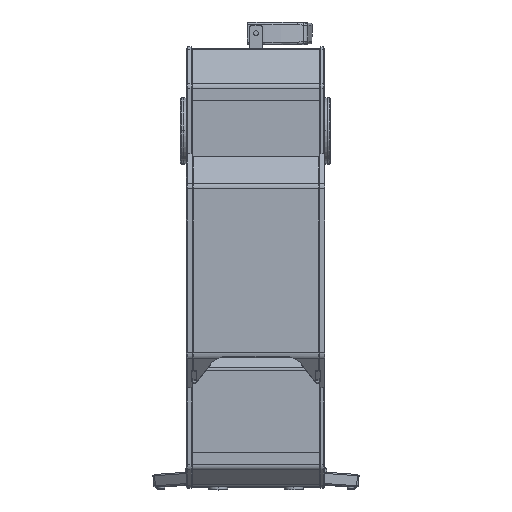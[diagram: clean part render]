
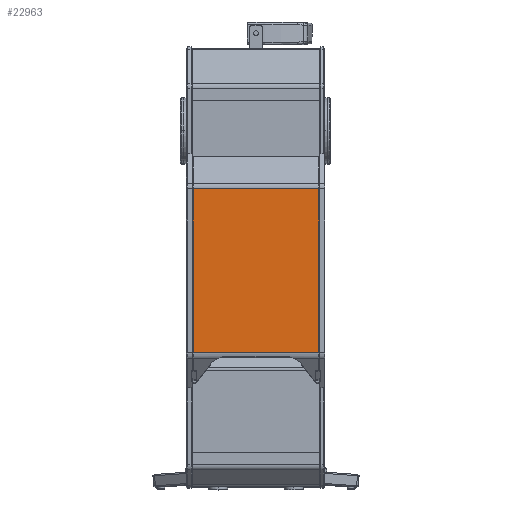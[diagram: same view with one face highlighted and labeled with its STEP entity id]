
A CAD part, top view. The second image highlights one B-rep face of the part: STEP entity #22963.
In plain terms, the highlighted planar face has unit normal (0, 0, 1).
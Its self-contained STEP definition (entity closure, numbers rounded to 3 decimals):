
#4959 = EDGE_CURVE ( 'NONE', #5474, #7762, #39995, .T. ) ;
#5474 = VERTEX_POINT ( 'NONE', #48054 ) ;
#7226 = ORIENTED_EDGE ( 'NONE', *, *, #43462, .T. ) ;
#7762 = VERTEX_POINT ( 'NONE', #8104 ) ;
#8104 = CARTESIAN_POINT ( 'NONE',  ( 3.7, 105.876, 270. ) ) ;
#10757 = LINE ( 'NONE', #34391, #44171 ) ;
#17013 = EDGE_CURVE ( 'NONE', #37741, #5474, #20360, .T. ) ;
#17059 = CARTESIAN_POINT ( 'NONE',  ( 103.3, 103.496, 270. ) ) ;
#17866 = DIRECTION ( 'NONE',  ( 1., 0., 0. ) ) ;
#18375 = VECTOR ( 'NONE', #47580, 1000. ) ;
#20360 = LINE ( 'NONE', #49711, #30577 ) ;
#22963 = ADVANCED_FACE ( 'NONE', ( #53963 ), #39602, .T. ) ;
#26522 = EDGE_LOOP ( 'NONE', ( #52740, #48116, #51717, #7226 ) ) ;
#28347 = VECTOR ( 'NONE', #40145, 1000. ) ;
#29928 = LINE ( 'NONE', #17059, #18375 ) ;
#30577 = VECTOR ( 'NONE', #36768, 1000. ) ;
#31209 = AXIS2_PLACEMENT_3D ( 'NONE', #43809, #43986, #17866 ) ;
#32099 = CARTESIAN_POINT ( 'NONE',  ( 103.3, 236.124, 270. ) ) ;
#34391 = CARTESIAN_POINT ( 'NONE',  ( 104., 105.876, 270. ) ) ;
#36768 = DIRECTION ( 'NONE',  ( -1., 0., 0. ) ) ;
#37741 = VERTEX_POINT ( 'NONE', #32099 ) ;
#39602 = PLANE ( 'NONE',  #31209 ) ;
#39995 = LINE ( 'NONE', #51836, #28347 ) ;
#40145 = DIRECTION ( 'NONE',  ( 0., -1., 0. ) ) ;
#43462 = EDGE_CURVE ( 'NONE', #7762, #47745, #10757, .T. ) ;
#43809 = CARTESIAN_POINT ( 'NONE',  ( 104., 103.496, 270. ) ) ;
#43986 = DIRECTION ( 'NONE',  ( 0., 0., 1. ) ) ;
#44171 = VECTOR ( 'NONE', #51706, 1000. ) ;
#47580 = DIRECTION ( 'NONE',  ( 0., 1., 0. ) ) ;
#47745 = VERTEX_POINT ( 'NONE', #49844 ) ;
#48054 = CARTESIAN_POINT ( 'NONE',  ( 3.7, 236.124, 270. ) ) ;
#48116 = ORIENTED_EDGE ( 'NONE', *, *, #17013, .T. ) ;
#49711 = CARTESIAN_POINT ( 'NONE',  ( 104., 236.124, 270. ) ) ;
#49844 = CARTESIAN_POINT ( 'NONE',  ( 103.3, 105.876, 270. ) ) ;
#51706 = DIRECTION ( 'NONE',  ( 1., 0., 0. ) ) ;
#51717 = ORIENTED_EDGE ( 'NONE', *, *, #4959, .T. ) ;
#51836 = CARTESIAN_POINT ( 'NONE',  ( 3.7, 103.496, 270. ) ) ;
#52740 = ORIENTED_EDGE ( 'NONE', *, *, #52761, .T. ) ;
#52761 = EDGE_CURVE ( 'NONE', #47745, #37741, #29928, .T. ) ;
#53963 = FACE_OUTER_BOUND ( 'NONE', #26522, .T. ) ;
